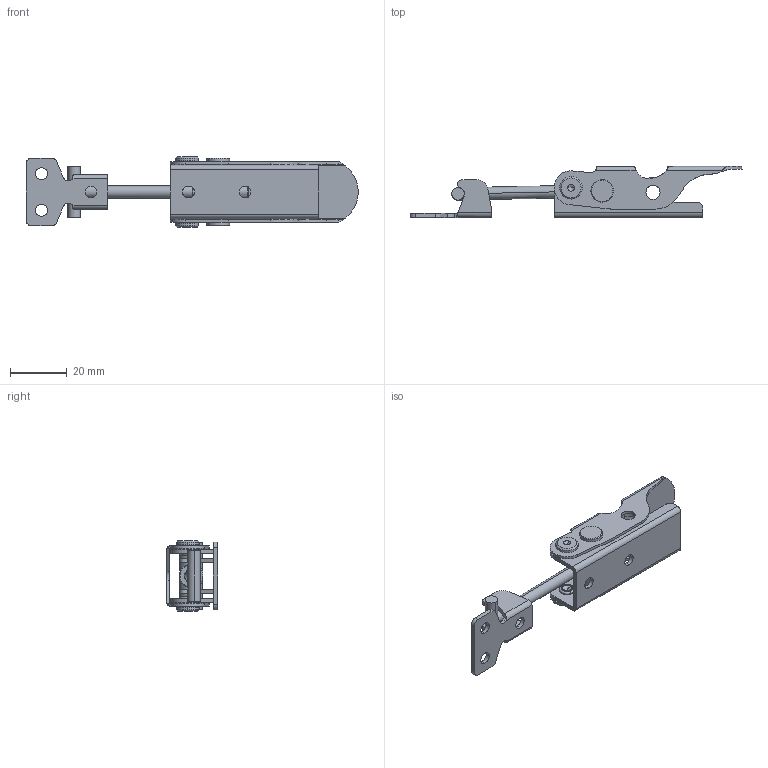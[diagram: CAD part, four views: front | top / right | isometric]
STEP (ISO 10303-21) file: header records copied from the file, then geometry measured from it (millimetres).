
FILE_DESCRIPTION (( 'STEP AP214' ), '1' );
FILE_NAME ('761-100-T-NI.step', '2020-10-16T12:07:31', ( '' ), ( '' ), 'SwSTEP 2.0', 'SolidWorks 2019', '' );
FILE_SCHEMA (( 'AUTOMOTIVE_DESIGN' ));
Length unit declared in the file: millimetre
Products named in the file (6): WB761_Drehachse^WB761-100; WB671_Gegenhalter^WB761-100; WB761_Fuss^WB761-100; WB761_Zuganker T^WB761-100; 761-100-T-NI; WB761_Spanner^WB761-100
Assembly tree (5 placements, depth 2):
  761-100-T-NI
    WB671_Gegenhalter^WB761-100
    WB761_Spanner^WB761-100
    WB761_Fuss^WB761-100
    WB761_Drehachse^WB761-100
    WB761_Zuganker T^WB761-100
Bounding box: 117.45 x 18.05 x 25 mm (x, y, z)
Volume: 8035.1 mm3; surface area: 11818.5 mm2
Topology: 5 solids, 5 shells, 275 faces, 750 edges, 485 vertices
Faces by surface type: cylinder 127, plane 107, cone 33, torus 8
Entity records: 11925 total; most frequent: CARTESIAN_POINT 2262, DIRECTION 1491, ORIENTED_EDGE 1484, EDGE_CURVE 742, AXIS2_PLACEMENT_3D 558, VERTEX_POINT 485, VECTOR 375, LINE 375
